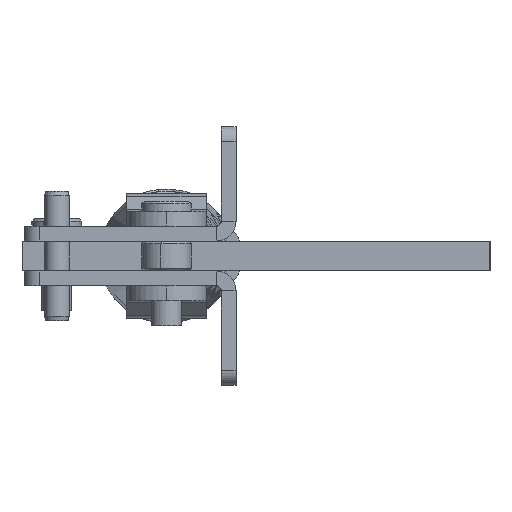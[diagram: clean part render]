
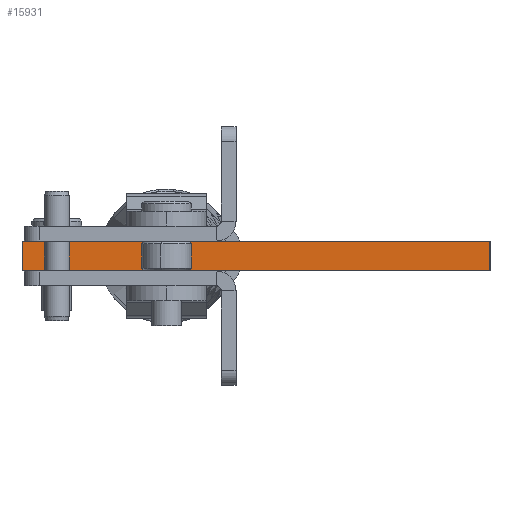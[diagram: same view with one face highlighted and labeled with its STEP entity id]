
A CAD part, front view. The second image highlights one B-rep face of the part: STEP entity #15931.
In plain terms, the highlighted planar face has unit normal (0, -1, 0).
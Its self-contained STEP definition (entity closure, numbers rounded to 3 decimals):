
#362 = LINE ( 'NONE', #13740, #1624 ) ;
#504 = DIRECTION ( 'NONE',  ( 1., 0., 0. ) ) ;
#658 = VECTOR ( 'NONE', #9176, 1000. ) ;
#1624 = VECTOR ( 'NONE', #504, 1000. ) ;
#1938 = VERTEX_POINT ( 'NONE', #9485 ) ;
#2484 = VERTEX_POINT ( 'NONE', #6901 ) ;
#2956 = LINE ( 'NONE', #11562, #8787 ) ;
#5629 = EDGE_CURVE ( 'NONE', #15336, #22284, #16820, .T. ) ;
#6707 = CARTESIAN_POINT ( 'NONE',  ( 87., -7., 6. ) ) ;
#6901 = CARTESIAN_POINT ( 'NONE',  ( 87., -7., 0. ) ) ;
#8787 = VECTOR ( 'NONE', #22852, 1000. ) ;
#9024 = ORIENTED_EDGE ( 'NONE', *, *, #24919, .F. ) ;
#9176 = DIRECTION ( 'NONE',  ( 1., 0., 0. ) ) ;
#9485 = CARTESIAN_POINT ( 'NONE',  ( 87., -7., 6. ) ) ;
#10693 = FACE_OUTER_BOUND ( 'NONE', #14998, .T. ) ;
#11025 = AXIS2_PLACEMENT_3D ( 'NONE', #12878, #15210, #21710 ) ;
#11562 = CARTESIAN_POINT ( 'NONE',  ( 87., -7., 6. ) ) ;
#11754 = DIRECTION ( 'NONE',  ( 0., 0., -1. ) ) ;
#11795 = EDGE_CURVE ( 'NONE', #1938, #2484, #2956, .T. ) ;
#12878 = CARTESIAN_POINT ( 'NONE',  ( 87., -7., 6. ) ) ;
#13740 = CARTESIAN_POINT ( 'NONE',  ( 87., -7., 0. ) ) ;
#13930 = CARTESIAN_POINT ( 'NONE',  ( -7., -7., 6. ) ) ;
#14655 = CARTESIAN_POINT ( 'NONE',  ( -7., -7., 0. ) ) ;
#14998 = EDGE_LOOP ( 'NONE', ( #21727, #21549, #9024, #28637 ) ) ;
#15210 = DIRECTION ( 'NONE',  ( 0., 1., 0. ) ) ;
#15336 = VERTEX_POINT ( 'NONE', #20942 ) ;
#15931 = ADVANCED_FACE ( 'Face2', ( #10693 ), #26334, .F. ) ;
#16820 = LINE ( 'NONE', #13930, #20184 ) ;
#20184 = VECTOR ( 'NONE', #11754, 1000. ) ;
#20942 = CARTESIAN_POINT ( 'NONE',  ( -7., -7., 6. ) ) ;
#21549 = ORIENTED_EDGE ( 'NONE', *, *, #11795, .F. ) ;
#21710 = DIRECTION ( 'NONE',  ( 0., 0., 1. ) ) ;
#21727 = ORIENTED_EDGE ( 'NONE', *, *, #28106, .T. ) ;
#22284 = VERTEX_POINT ( 'NONE', #14655 ) ;
#22852 = DIRECTION ( 'NONE',  ( 0., 0., -1. ) ) ;
#24919 = EDGE_CURVE ( 'NONE', #15336, #1938, #26868, .T. ) ;
#26334 = PLANE ( 'NONE',  #11025 ) ;
#26868 = LINE ( 'NONE', #6707, #658 ) ;
#28106 = EDGE_CURVE ( 'NONE', #22284, #2484, #362, .T. ) ;
#28637 = ORIENTED_EDGE ( 'NONE', *, *, #5629, .T. ) ;
